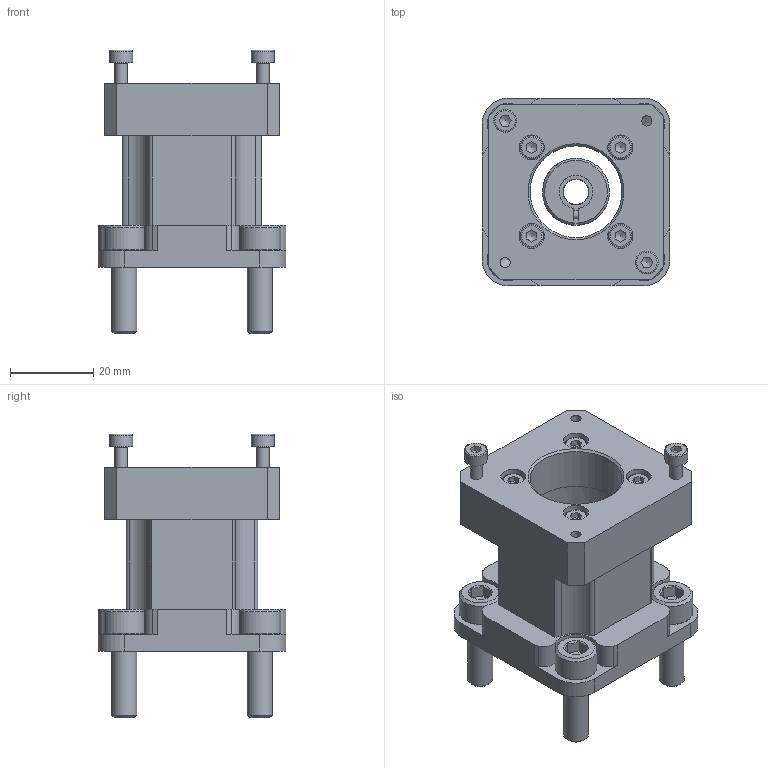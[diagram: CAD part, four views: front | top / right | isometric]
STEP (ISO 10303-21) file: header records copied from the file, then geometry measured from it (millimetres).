
FILE_DESCRIPTION(/* description */ ('EAMK-A O-Coupling housing'),/* implementation_level */ '2;1');
FILE_NAME(/* name */ 'C:\STORE\ホームページ用データ\\X2\30E230FC30BF53D64ED830AD30C330C8\X0\_2016_追加\3D_STEP\J08561A.stp',/* time_stamp */ '2016-03-08T10:59:19+09:00',/* author */ ('jp4te01'),/* organization */ ('FESTO'),/* preprocessor_version */ 'ST-DEVELOPER v15.6',/* originating_system */ 'Autodesk Inventor 2015',/* authorisation */ '');
FILE_SCHEMA (('AUTOMOTIVE_DESIGN { 1 0 10303 214 3 1 1 }'));
Products named in the file (8): 552155 EAMK-A-D32-28---(1O); DIN-912 - M6x20(F); 552155 EAMK-A-D32-28B; 1232854_EAMC_16_20_6_8; J09596; コピー版 JIS B 1176 - M3 x 15; コピー版 JIS B 1176 - M3 x 12; J08561A
Bounding box: 45 x 45 x 68 mm (x, y, z)
Volume: 42131.5 mm3; surface area: 23990.8 mm2
Topology: 13 solids, 13 shells, 481 faces, 1157 edges, 737 vertices
Faces by surface type: plane 227, cylinder 145, cone 95, torus 14
Full cylindrical faces by diameter (mm): 1 x8, 2 x3, 2.1 x3, 2.459 x12, 3 x6, 3.4 x4, 3.8 x2, 4 x2, 5.5 x6, 6 x8, 6.2 x1, 10 x4, 22 x1, 32 x1
Entity records: 9942 total; most frequent: CARTESIAN_POINT 1938, DIRECTION 1720, ORIENTED_EDGE 1458, EDGE_CURVE 729, AXIS2_PLACEMENT_3D 694, VERTEX_POINT 523, EDGE_LOOP 496, FACE_OUTER_BOUND 337
